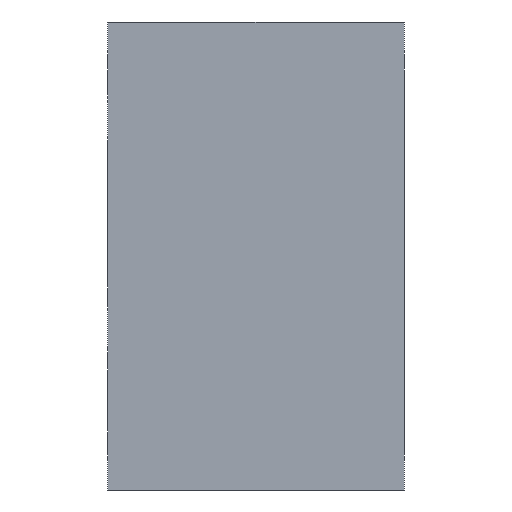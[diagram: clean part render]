
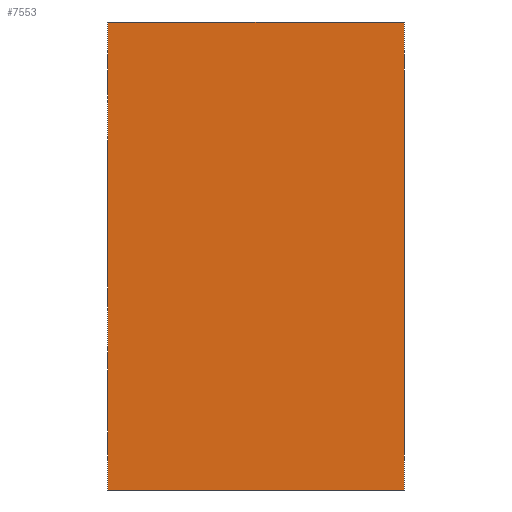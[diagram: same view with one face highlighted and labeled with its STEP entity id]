
A CAD part, left-side view. The second image highlights one B-rep face of the part: STEP entity #7553.
In plain terms, the highlighted planar face has unit normal (-1, 0, 0).
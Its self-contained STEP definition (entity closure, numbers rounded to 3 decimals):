
#37 = CARTESIAN_POINT ( 'NONE',  ( 0., -19., 30. ) ) ;
#215 = LINE ( 'NONE', #2359, #401 ) ;
#269 = ORIENTED_EDGE ( 'NONE', *, *, #4713, .F. ) ;
#401 = VECTOR ( 'NONE', #9078, 1000. ) ;
#414 = VERTEX_POINT ( 'NONE', #11557 ) ;
#633 = CARTESIAN_POINT ( 'NONE',  ( 0., 19., 30. ) ) ;
#791 = ORIENTED_EDGE ( 'NONE', *, *, #1105, .F. ) ;
#1105 = EDGE_CURVE ( 'NONE', #414, #3313, #215, .T. ) ;
#2023 = LINE ( 'NONE', #37, #4849 ) ;
#2359 = CARTESIAN_POINT ( 'NONE',  ( 0., -19., -30. ) ) ;
#2617 = DIRECTION ( 'NONE',  ( -1., 0., 0. ) ) ;
#2648 = ORIENTED_EDGE ( 'NONE', *, *, #9330, .F. ) ;
#3105 = VECTOR ( 'NONE', #11753, 1000. ) ;
#3313 = VERTEX_POINT ( 'NONE', #11718 ) ;
#3701 = CARTESIAN_POINT ( 'NONE',  ( 0., -19., 30. ) ) ;
#4509 = VERTEX_POINT ( 'NONE', #633 ) ;
#4617 = VERTEX_POINT ( 'NONE', #3701 ) ;
#4713 = EDGE_CURVE ( 'NONE', #3313, #4509, #8032, .T. ) ;
#4849 = VECTOR ( 'NONE', #5788, 1000. ) ;
#4904 = CARTESIAN_POINT ( 'NONE',  ( 0., 19., 30. ) ) ;
#5485 = CARTESIAN_POINT ( 'NONE',  ( 0., -19., 30. ) ) ;
#5788 = DIRECTION ( 'NONE',  ( 0., -1., 0. ) ) ;
#6653 = AXIS2_PLACEMENT_3D ( 'NONE', #8026, #2617, #8895 ) ;
#7094 = PLANE ( 'NONE',  #6653 ) ;
#7553 = ADVANCED_FACE ( 'NONE', ( #7752 ), #7094, .T. ) ;
#7752 = FACE_OUTER_BOUND ( 'NONE', #11536, .T. ) ;
#7944 = VECTOR ( 'NONE', #9314, 1000. ) ;
#8026 = CARTESIAN_POINT ( 'NONE',  ( 0., 19., -30. ) ) ;
#8032 = LINE ( 'NONE', #4904, #7944 ) ;
#8895 = DIRECTION ( 'NONE',  ( 0., 0., 1. ) ) ;
#9050 = EDGE_CURVE ( 'NONE', #4617, #414, #10285, .T. ) ;
#9078 = DIRECTION ( 'NONE',  ( 0., 1., 0. ) ) ;
#9314 = DIRECTION ( 'NONE',  ( 0., 0., 1. ) ) ;
#9330 = EDGE_CURVE ( 'NONE', #4509, #4617, #2023, .T. ) ;
#10285 = LINE ( 'NONE', #5485, #3105 ) ;
#11536 = EDGE_LOOP ( 'NONE', ( #791, #11877, #2648, #269 ) ) ;
#11557 = CARTESIAN_POINT ( 'NONE',  ( 0., -19., -30. ) ) ;
#11718 = CARTESIAN_POINT ( 'NONE',  ( 0., 19., -30. ) ) ;
#11753 = DIRECTION ( 'NONE',  ( 0., 0., -1. ) ) ;
#11877 = ORIENTED_EDGE ( 'NONE', *, *, #9050, .F. ) ;
